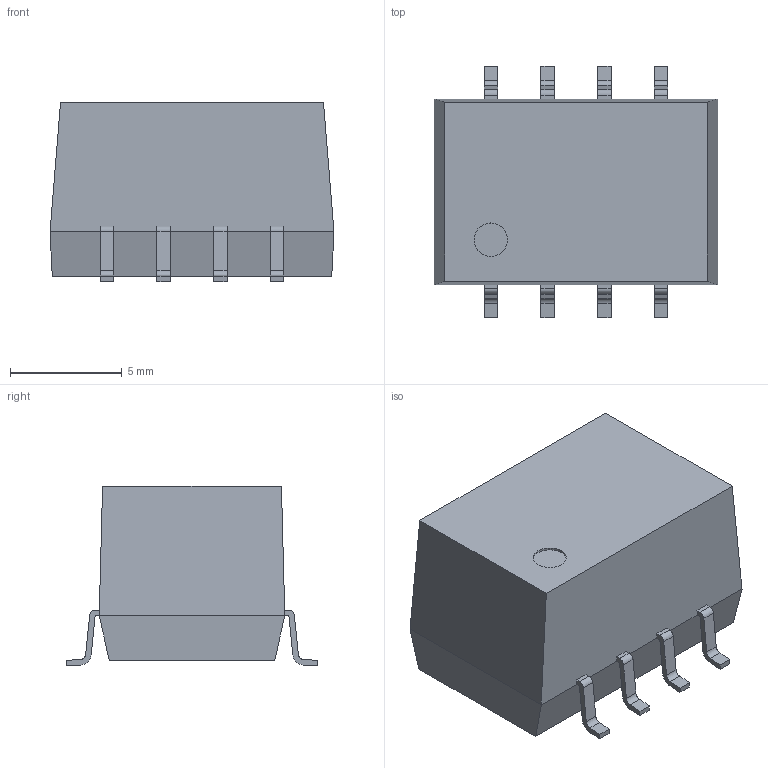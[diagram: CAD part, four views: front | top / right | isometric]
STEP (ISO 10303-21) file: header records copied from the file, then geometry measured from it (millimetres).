
FILE_DESCRIPTION (( 'STEP AP214' ), '1' );
FILE_NAME ('tsm-single-24Vin.STEP', '2017-10-24T12:03:22', ( '' ), ( '' ), 'SwSTEP 2.0', 'SolidWorks 2013', '' );
FILE_SCHEMA (( 'AUTOMOTIVE_DESIGN' ));
Length unit declared in the file: millimetre
Products named in the file (1): tsm-single-24Vin
Bounding box: 12.7 x 11.23 x 8.05 mm (x, y, z)
Volume: 779.9 mm3; surface area: 551.7 mm2
Topology: 1 solids, 1 shells, 109 faces, 298 edges, 192 vertices
Faces by surface type: plane 83, cylinder 26
Entity records: 4637 total; most frequent: CARTESIAN_POINT 600, ORIENTED_EDGE 596, DIRECTION 570, EDGE_CURVE 298, LINE 246, VECTOR 246, VERTEX_POINT 192, AXIS2_PLACEMENT_3D 162
